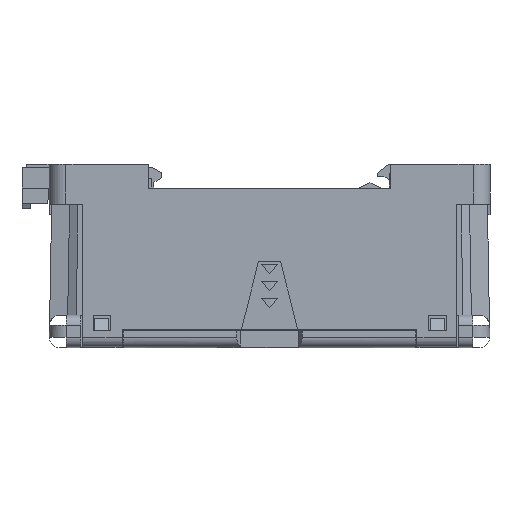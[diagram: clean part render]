
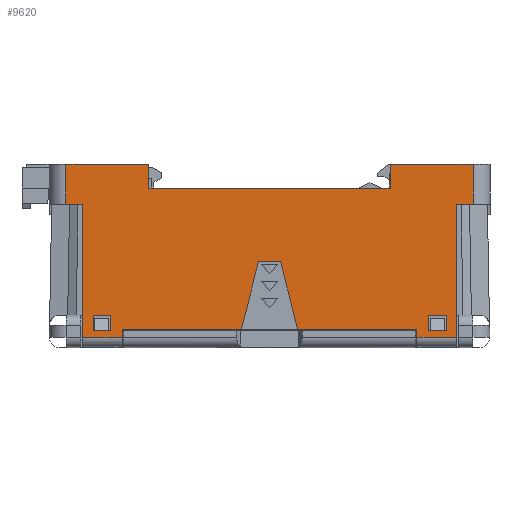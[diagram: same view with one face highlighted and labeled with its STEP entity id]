
A CAD part, left-side view. The second image highlights one B-rep face of the part: STEP entity #9620.
In plain terms, the highlighted planar face has unit normal (-1, 0, 0).
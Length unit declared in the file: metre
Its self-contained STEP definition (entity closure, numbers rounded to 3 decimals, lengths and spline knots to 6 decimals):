
#351=CARTESIAN_POINT('',(-0.019,0.0261,-0.0187));
#352=VERTEX_POINT('',#351);
#357=CARTESIAN_POINT('',(-0.019,0.0235,-0.0187));
#358=DIRECTION('',(0.,1.,0.));
#359=VECTOR('',#358,1.);
#360=LINE('',#357,#359);
#361=CARTESIAN_POINT('',(-0.019,0.0235,-0.0187));
#362=VERTEX_POINT('',#361);
#363=EDGE_CURVE('',#362,#352,#360,.T.);
#396=CARTESIAN_POINT('',(-0.019,0.0235,-0.0164));
#397=DIRECTION('',(0.,0.,-1.));
#398=VECTOR('',#397,1.);
#399=LINE('',#396,#398);
#400=CARTESIAN_POINT('',(-0.019,0.0235,-0.0164));
#401=VERTEX_POINT('',#400);
#402=EDGE_CURVE('',#401,#362,#399,.T.);
#435=CARTESIAN_POINT('',(-0.019,0.0261,-0.0164));
#436=DIRECTION('',(0.,-1.,0.));
#437=VECTOR('',#436,1.);
#438=LINE('',#435,#437);
#439=CARTESIAN_POINT('',(-0.019,0.0261,-0.0164));
#440=VERTEX_POINT('',#439);
#441=EDGE_CURVE('',#440,#401,#438,.T.);
#474=CARTESIAN_POINT('',(-0.019,0.0261,-0.0187));
#475=DIRECTION('',(0.,0.,1.));
#476=VECTOR('',#475,1.);
#477=LINE('',#474,#476);
#478=EDGE_CURVE('',#352,#440,#477,.T.);
#1250=CARTESIAN_POINT('',(-0.019,-0.0218,-0.0197));
#1251=VERTEX_POINT('',#1250);
#1254=CARTESIAN_POINT('',(-0.019,-0.0218,-0.0185));
#1255=DIRECTION('',(0.,0.,-1.));
#1256=VECTOR('',#1255,1.);
#1257=LINE('',#1254,#1256);
#1258=CARTESIAN_POINT('',(-0.019,-0.0218,-0.0185));
#1259=VERTEX_POINT('',#1258);
#1260=EDGE_CURVE('',#1259,#1251,#1257,.T.);
#1299=CARTESIAN_POINT('',(-0.019,-0.0276,-0.0197));
#1300=VERTEX_POINT('',#1299);
#1303=CARTESIAN_POINT('',(-0.019,-0.0326,-0.0197));
#1304=DIRECTION('',(0.,1.,0.));
#1305=VECTOR('',#1304,1.);
#1306=LINE('',#1303,#1305);
#1307=EDGE_CURVE('',#1300,#1251,#1306,.T.);
#1332=CARTESIAN_POINT('',(-0.019,-0.0276,-0.0211));
#1333=DIRECTION('',(0.,0.,1.));
#1334=VECTOR('',#1333,1.);
#1335=LINE('',#1332,#1334);
#1336=CARTESIAN_POINT('',(-0.019,-0.0276,0.));
#1337=VERTEX_POINT('',#1336);
#1338=EDGE_CURVE('',#1300,#1337,#1335,.T.);
#1394=CARTESIAN_POINT('',(-0.019,-0.0301,0.0059));
#1395=VERTEX_POINT('',#1394);
#1398=CARTESIAN_POINT('',(-0.019,-0.0301,0.0024));
#1399=DIRECTION('',(0.,0.,-1.));
#1400=VECTOR('',#1399,1.);
#1401=LINE('',#1398,#1400);
#1402=CARTESIAN_POINT('',(-0.019,-0.0301,0.));
#1403=VERTEX_POINT('',#1402);
#1404=EDGE_CURVE('',#1395,#1403,#1401,.T.);
#1596=CARTESIAN_POINT('',(-0.019,-0.0326,0.));
#1597=DIRECTION('',(0.,1.,0.));
#1598=VECTOR('',#1597,1.);
#1599=LINE('',#1596,#1598);
#1600=EDGE_CURVE('',#1403,#1337,#1599,.T.);
#4648=CARTESIAN_POINT('',(-0.019,0.0301,0.0024));
#4649=DIRECTION('',(0.,0.,-1.));
#4650=VECTOR('',#4649,1.);
#4651=LINE('',#4648,#4650);
#4652=CARTESIAN_POINT('',(-0.019,0.0301,0.0059));
#4653=VERTEX_POINT('',#4652);
#4654=CARTESIAN_POINT('',(-0.019,0.0301,0.));
#4655=VERTEX_POINT('',#4654);
#4656=EDGE_CURVE('',#4653,#4655,#4651,.T.);
#7844=CARTESIAN_POINT('',(-0.019,0.0179,0.0024));
#7845=VERTEX_POINT('',#7844);
#7848=CARTESIAN_POINT('',(-0.019,-0.0326,0.0024));
#7849=DIRECTION('',(0.,1.,0.));
#7850=VECTOR('',#7849,1.);
#7851=LINE('',#7848,#7850);
#7852=CARTESIAN_POINT('',(-0.019,-0.0179,0.0024));
#7853=VERTEX_POINT('',#7852);
#7854=EDGE_CURVE('',#7853,#7845,#7851,.T.);
#8242=CARTESIAN_POINT('',(-0.019,0.0301,0.0059));
#8243=DIRECTION('',(0.,-1.,0.));
#8244=VECTOR('',#8243,1.);
#8245=LINE('',#8242,#8244);
#8246=CARTESIAN_POINT('',(-0.019,0.0179,0.0059));
#8247=VERTEX_POINT('',#8246);
#8248=EDGE_CURVE('',#4653,#8247,#8245,.T.);
#8381=CARTESIAN_POINT('',(-0.019,0.0179,0.0059));
#8382=DIRECTION('',(0.,0.,-1.));
#8383=VECTOR('',#8382,1.);
#8384=LINE('',#8381,#8383);
#8385=EDGE_CURVE('',#8247,#7845,#8384,.T.);
#8718=CARTESIAN_POINT('',(-0.019,0.0276,0.));
#8719=VERTEX_POINT('',#8718);
#8722=EDGE_CURVE('',#8719,#4655,#1599,.T.);
#8881=CARTESIAN_POINT('',(-0.019,0.0276,-0.0197));
#8882=VERTEX_POINT('',#8881);
#8885=CARTESIAN_POINT('',(-0.019,0.0276,-0.0211));
#8886=DIRECTION('',(0.,0.,1.));
#8887=VECTOR('',#8886,1.);
#8888=LINE('',#8885,#8887);
#8889=EDGE_CURVE('',#8882,#8719,#8888,.T.);
#8921=CARTESIAN_POINT('',(-0.019,0.0218,-0.0197));
#8922=VERTEX_POINT('',#8921);
#8925=CARTESIAN_POINT('',(-0.019,-0.0326,-0.0197));
#8926=DIRECTION('',(0.,1.,0.));
#8927=VECTOR('',#8926,1.);
#8928=LINE('',#8925,#8927);
#8929=EDGE_CURVE('',#8922,#8882,#8928,.T.);
#8949=CARTESIAN_POINT('',(-0.019,0.0218,-0.0211));
#8950=DIRECTION('',(0.,0.,1.));
#8951=VECTOR('',#8950,1.);
#8952=LINE('',#8949,#8951);
#8953=CARTESIAN_POINT('',(-0.019,0.0218,-0.0185));
#8954=VERTEX_POINT('',#8953);
#8955=EDGE_CURVE('',#8922,#8954,#8952,.T.);
#9005=CARTESIAN_POINT('',(-0.019,0.00415,-0.0185));
#9006=VERTEX_POINT('',#9005);
#9009=CARTESIAN_POINT('',(-0.019,0.0218,-0.0185));
#9010=DIRECTION('',(0.,-1.,0.));
#9011=VECTOR('',#9010,1.);
#9012=LINE('',#9009,#9011);
#9013=EDGE_CURVE('',#8954,#9006,#9012,.T.);
#9023=CARTESIAN_POINT('',(-0.019,-0.00415,-0.0185));
#9024=VERTEX_POINT('',#9023);
#9025=EDGE_CURVE('',#9024,#1259,#9012,.T.);
#9049=CARTESIAN_POINT('',(-0.019,0.00415,-0.0185));
#9050=DIRECTION('',(0.,-0.243,0.97));
#9051=VECTOR('',#9050,1.);
#9052=LINE('',#9049,#9051);
#9053=CARTESIAN_POINT('',(-0.019,0.00165,-0.0085));
#9054=VERTEX_POINT('',#9053);
#9055=EDGE_CURVE('',#9006,#9054,#9052,.T.);
#9088=CARTESIAN_POINT('',(-0.019,0.00165,-0.0085));
#9089=DIRECTION('',(0.,-1.,0.));
#9090=VECTOR('',#9089,1.);
#9091=LINE('',#9088,#9090);
#9092=CARTESIAN_POINT('',(-0.019,-0.00165,-0.0085));
#9093=VERTEX_POINT('',#9092);
#9094=EDGE_CURVE('',#9054,#9093,#9091,.T.);
#9127=CARTESIAN_POINT('',(-0.019,-0.00165,-0.0085));
#9128=DIRECTION('',(0.,-0.243,-0.97));
#9129=VECTOR('',#9128,1.);
#9130=LINE('',#9127,#9129);
#9131=EDGE_CURVE('',#9093,#9024,#9130,.T.);
#9465=CARTESIAN_POINT('',(-0.019,-0.0261,-0.0187));
#9466=VERTEX_POINT('',#9465);
#9469=CARTESIAN_POINT('',(-0.019,-0.0261,-0.0164));
#9470=DIRECTION('',(0.,0.,-1.));
#9471=VECTOR('',#9470,1.);
#9472=LINE('',#9469,#9471);
#9473=CARTESIAN_POINT('',(-0.019,-0.0261,-0.0164));
#9474=VERTEX_POINT('',#9473);
#9475=EDGE_CURVE('',#9474,#9466,#9472,.T.);
#9496=CARTESIAN_POINT('',(-0.019,-0.0235,-0.0164));
#9497=DIRECTION('',(0.,-1.,0.));
#9498=VECTOR('',#9497,1.);
#9499=LINE('',#9496,#9498);
#9500=CARTESIAN_POINT('',(-0.019,-0.0235,-0.0164));
#9501=VERTEX_POINT('',#9500);
#9502=EDGE_CURVE('',#9501,#9474,#9499,.T.);
#9523=CARTESIAN_POINT('',(-0.019,-0.0235,-0.0187));
#9524=DIRECTION('',(0.,0.,1.));
#9525=VECTOR('',#9524,1.);
#9526=LINE('',#9523,#9525);
#9527=CARTESIAN_POINT('',(-0.019,-0.0235,-0.0187));
#9528=VERTEX_POINT('',#9527);
#9529=EDGE_CURVE('',#9528,#9501,#9526,.T.);
#9550=CARTESIAN_POINT('',(-0.019,-0.0261,-0.0187));
#9551=DIRECTION('',(0.,1.,0.));
#9552=VECTOR('',#9551,1.);
#9553=LINE('',#9550,#9552);
#9554=EDGE_CURVE('',#9466,#9528,#9553,.T.);
#9569=CARTESIAN_POINT('',(-0.019,-0.0326,0.0024));
#9570=DIRECTION('',(-1.,0.,0.));
#9571=DIRECTION('',(0.,-1.,0.));
#9572=AXIS2_PLACEMENT_3D('',#9569,#9570,#9571);
#9573=PLANE('',#9572);
#9574=ORIENTED_EDGE('',*,*,#9554,.T.);
#9575=ORIENTED_EDGE('',*,*,#9529,.T.);
#9576=ORIENTED_EDGE('',*,*,#9502,.T.);
#9577=ORIENTED_EDGE('',*,*,#9475,.T.);
#9578=EDGE_LOOP('',(#9574,#9575,#9576,#9577));
#9579=FACE_BOUND('',#9578,.T.);
#9580=ORIENTED_EDGE('',*,*,#363,.T.);
#9581=ORIENTED_EDGE('',*,*,#478,.T.);
#9582=ORIENTED_EDGE('',*,*,#441,.T.);
#9583=ORIENTED_EDGE('',*,*,#402,.T.);
#9584=EDGE_LOOP('',(#9580,#9581,#9582,#9583));
#9585=FACE_BOUND('',#9584,.T.);
#9586=ORIENTED_EDGE('',*,*,#9094,.T.);
#9587=ORIENTED_EDGE('',*,*,#9131,.T.);
#9588=ORIENTED_EDGE('',*,*,#9025,.T.);
#9589=ORIENTED_EDGE('',*,*,#1260,.T.);
#9590=ORIENTED_EDGE('',*,*,#1307,.F.);
#9591=ORIENTED_EDGE('',*,*,#1338,.T.);
#9592=ORIENTED_EDGE('',*,*,#1600,.F.);
#9593=ORIENTED_EDGE('',*,*,#1404,.F.);
#9594=CARTESIAN_POINT('',(-0.019,-0.0179,0.0059));
#9595=DIRECTION('',(0.,-1.,0.));
#9596=VECTOR('',#9595,1.);
#9597=LINE('',#9594,#9596);
#9598=CARTESIAN_POINT('',(-0.019,-0.0179,0.0059));
#9599=VERTEX_POINT('',#9598);
#9600=EDGE_CURVE('',#9599,#1395,#9597,.T.);
#9601=ORIENTED_EDGE('',*,*,#9600,.F.);
#9602=CARTESIAN_POINT('',(-0.019,-0.0179,0.0059));
#9603=DIRECTION('',(0.,0.,-1.));
#9604=VECTOR('',#9603,1.);
#9605=LINE('',#9602,#9604);
#9606=EDGE_CURVE('',#9599,#7853,#9605,.T.);
#9607=ORIENTED_EDGE('',*,*,#9606,.T.);
#9608=ORIENTED_EDGE('',*,*,#7854,.T.);
#9609=ORIENTED_EDGE('',*,*,#8385,.F.);
#9610=ORIENTED_EDGE('',*,*,#8248,.F.);
#9611=ORIENTED_EDGE('',*,*,#4656,.T.);
#9612=ORIENTED_EDGE('',*,*,#8722,.F.);
#9613=ORIENTED_EDGE('',*,*,#8889,.F.);
#9614=ORIENTED_EDGE('',*,*,#8929,.F.);
#9615=ORIENTED_EDGE('',*,*,#8955,.T.);
#9616=ORIENTED_EDGE('',*,*,#9013,.T.);
#9617=ORIENTED_EDGE('',*,*,#9055,.T.);
#9618=EDGE_LOOP('',(#9586,#9587,#9588,#9589,#9590,#9591,#9592,#9593,#9601,#9607,#9608,#9609,#9610,#9611,#9612,#9613,#9614,#9615,#9616,#9617));
#9619=FACE_BOUND('',#9618,.T.);
#9620=ADVANCED_FACE('',(#9579,#9585,#9619),#9573,.T.);
